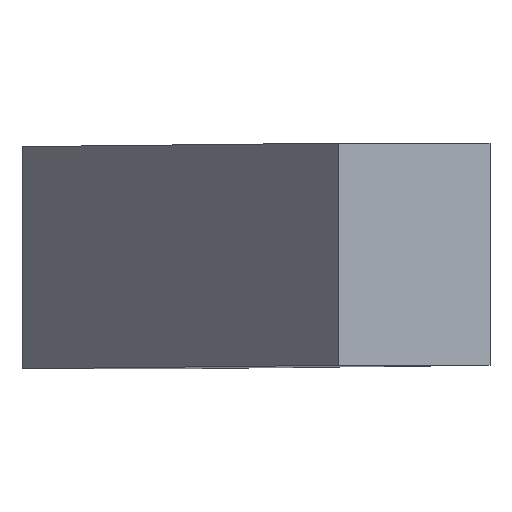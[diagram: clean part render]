
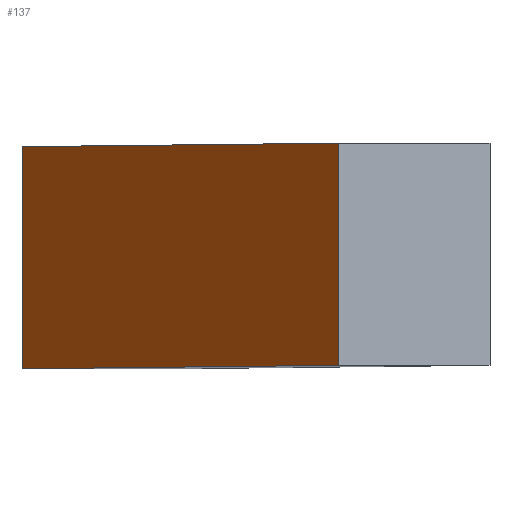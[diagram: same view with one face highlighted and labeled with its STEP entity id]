
A CAD part, top view. The second image highlights one B-rep face of the part: STEP entity #137.
In plain terms, the highlighted planar face has unit normal (-0.988, 0, 0.157).
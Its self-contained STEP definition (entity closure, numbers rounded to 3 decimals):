
#44 = PLANE('',#45);
#45 = AXIS2_PLACEMENT_3D('',#46,#47,#48);
#46 = CARTESIAN_POINT('',(130.889,-13.,-28.411));
#47 = DIRECTION('',(0.,1.,0.));
#48 = DIRECTION('',(-0.157,0.,-0.988));
#72 = PLANE('',#73);
#73 = AXIS2_PLACEMENT_3D('',#74,#75,#76);
#74 = CARTESIAN_POINT('',(130.889,-13.,-28.411));
#75 = DIRECTION('',(-0.157,0.,-0.988));
#76 = DIRECTION('',(-0.988,0.,0.157));
#100 = PLANE('',#101);
#101 = AXIS2_PLACEMENT_3D('',#102,#103,#104);
#102 = CARTESIAN_POINT('',(130.889,13.,-28.411));
#103 = DIRECTION('',(0.,1.,0.));
#104 = DIRECTION('',(-0.157,0.,-0.988));
#126 = PLANE('',#127);
#127 = AXIS2_PLACEMENT_3D('',#128,#129,#130);
#128 = CARTESIAN_POINT('',(93.889,-13.,-261.411));
#129 = DIRECTION('',(-0.157,0.,-0.988));
#130 = DIRECTION('',(-0.988,0.,0.157));
#137 = ADVANCED_FACE('',(#138),#152,.T.);
#138 = FACE_BOUND('',#139,.T.);
#139 = EDGE_LOOP('',(#140,#170,#193,#216));
#140 = ORIENTED_EDGE('',*,*,#141,.F.);
#141 = EDGE_CURVE('',#142,#144,#146,.T.);
#142 = VERTEX_POINT('',#143);
#143 = CARTESIAN_POINT('',(113.111,-13.,-25.589));
#144 = VERTEX_POINT('',#145);
#145 = CARTESIAN_POINT('',(76.111,-13.,-258.589));
#146 = SURFACE_CURVE('',#147,(#151,#163),.PCURVE_S1.);
#147 = LINE('',#148,#149);
#148 = CARTESIAN_POINT('',(113.111,-13.,-25.589));
#149 = VECTOR('',#150,1.);
#150 = DIRECTION('',(-0.157,0.,-0.988));
#151 = PCURVE('',#152,#157);
#152 = PLANE('',#153);
#153 = AXIS2_PLACEMENT_3D('',#154,#155,#156);
#154 = CARTESIAN_POINT('',(113.111,-13.,-25.589));
#155 = DIRECTION('',(-0.988,0.,0.157));
#156 = DIRECTION('',(-0.157,0.,-0.988));
#157 = DEFINITIONAL_REPRESENTATION('',(#158),#162);
#158 = LINE('',#159,#160);
#159 = CARTESIAN_POINT('',(0.,0.));
#160 = VECTOR('',#161,1.);
#161 = DIRECTION('',(1.,0.));
#162 = ( GEOMETRIC_REPRESENTATION_CONTEXT(2) 
PARAMETRIC_REPRESENTATION_CONTEXT() REPRESENTATION_CONTEXT('2D SPACE',''
  ) );
#163 = PCURVE('',#44,#164);
#164 = DEFINITIONAL_REPRESENTATION('',(#165),#169);
#165 = LINE('',#166,#167);
#166 = CARTESIAN_POINT('',(0.,18.));
#167 = VECTOR('',#168,1.);
#168 = DIRECTION('',(1.,0.));
#169 = ( GEOMETRIC_REPRESENTATION_CONTEXT(2) 
PARAMETRIC_REPRESENTATION_CONTEXT() REPRESENTATION_CONTEXT('2D SPACE',''
  ) );
#170 = ORIENTED_EDGE('',*,*,#171,.T.);
#171 = EDGE_CURVE('',#142,#172,#174,.T.);
#172 = VERTEX_POINT('',#173);
#173 = CARTESIAN_POINT('',(113.111,13.,-25.589));
#174 = SURFACE_CURVE('',#175,(#179,#186),.PCURVE_S1.);
#175 = LINE('',#176,#177);
#176 = CARTESIAN_POINT('',(113.111,-13.,-25.589));
#177 = VECTOR('',#178,1.);
#178 = DIRECTION('',(0.,1.,0.));
#179 = PCURVE('',#152,#180);
#180 = DEFINITIONAL_REPRESENTATION('',(#181),#185);
#181 = LINE('',#182,#183);
#182 = CARTESIAN_POINT('',(0.,0.));
#183 = VECTOR('',#184,1.);
#184 = DIRECTION('',(0.,-1.));
#185 = ( GEOMETRIC_REPRESENTATION_CONTEXT(2) 
PARAMETRIC_REPRESENTATION_CONTEXT() REPRESENTATION_CONTEXT('2D SPACE',''
  ) );
#186 = PCURVE('',#72,#187);
#187 = DEFINITIONAL_REPRESENTATION('',(#188),#192);
#188 = LINE('',#189,#190);
#189 = CARTESIAN_POINT('',(18.,0.));
#190 = VECTOR('',#191,1.);
#191 = DIRECTION('',(0.,1.));
#192 = ( GEOMETRIC_REPRESENTATION_CONTEXT(2) 
PARAMETRIC_REPRESENTATION_CONTEXT() REPRESENTATION_CONTEXT('2D SPACE',''
  ) );
#193 = ORIENTED_EDGE('',*,*,#194,.T.);
#194 = EDGE_CURVE('',#172,#195,#197,.T.);
#195 = VERTEX_POINT('',#196);
#196 = CARTESIAN_POINT('',(76.111,13.,-258.589));
#197 = SURFACE_CURVE('',#198,(#202,#209),.PCURVE_S1.);
#198 = LINE('',#199,#200);
#199 = CARTESIAN_POINT('',(113.111,13.,-25.589));
#200 = VECTOR('',#201,1.);
#201 = DIRECTION('',(-0.157,0.,-0.988));
#202 = PCURVE('',#152,#203);
#203 = DEFINITIONAL_REPRESENTATION('',(#204),#208);
#204 = LINE('',#205,#206);
#205 = CARTESIAN_POINT('',(0.,-26.));
#206 = VECTOR('',#207,1.);
#207 = DIRECTION('',(1.,0.));
#208 = ( GEOMETRIC_REPRESENTATION_CONTEXT(2) 
PARAMETRIC_REPRESENTATION_CONTEXT() REPRESENTATION_CONTEXT('2D SPACE',''
  ) );
#209 = PCURVE('',#100,#210);
#210 = DEFINITIONAL_REPRESENTATION('',(#211),#215);
#211 = LINE('',#212,#213);
#212 = CARTESIAN_POINT('',(0.,18.));
#213 = VECTOR('',#214,1.);
#214 = DIRECTION('',(1.,0.));
#215 = ( GEOMETRIC_REPRESENTATION_CONTEXT(2) 
PARAMETRIC_REPRESENTATION_CONTEXT() REPRESENTATION_CONTEXT('2D SPACE',''
  ) );
#216 = ORIENTED_EDGE('',*,*,#217,.F.);
#217 = EDGE_CURVE('',#144,#195,#218,.T.);
#218 = SURFACE_CURVE('',#219,(#223,#230),.PCURVE_S1.);
#219 = LINE('',#220,#221);
#220 = CARTESIAN_POINT('',(76.111,-13.,-258.589));
#221 = VECTOR('',#222,1.);
#222 = DIRECTION('',(0.,1.,0.));
#223 = PCURVE('',#152,#224);
#224 = DEFINITIONAL_REPRESENTATION('',(#225),#229);
#225 = LINE('',#226,#227);
#226 = CARTESIAN_POINT('',(235.919,0.));
#227 = VECTOR('',#228,1.);
#228 = DIRECTION('',(0.,-1.));
#229 = ( GEOMETRIC_REPRESENTATION_CONTEXT(2) 
PARAMETRIC_REPRESENTATION_CONTEXT() REPRESENTATION_CONTEXT('2D SPACE',''
  ) );
#230 = PCURVE('',#126,#231);
#231 = DEFINITIONAL_REPRESENTATION('',(#232),#236);
#232 = LINE('',#233,#234);
#233 = CARTESIAN_POINT('',(18.,0.));
#234 = VECTOR('',#235,1.);
#235 = DIRECTION('',(0.,1.));
#236 = ( GEOMETRIC_REPRESENTATION_CONTEXT(2) 
PARAMETRIC_REPRESENTATION_CONTEXT() REPRESENTATION_CONTEXT('2D SPACE',''
  ) );
